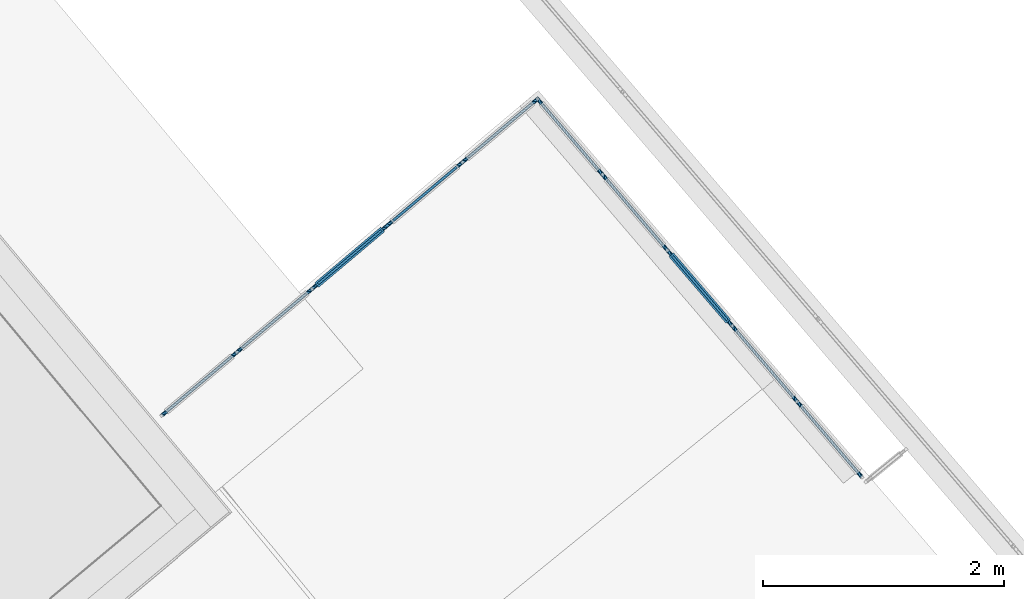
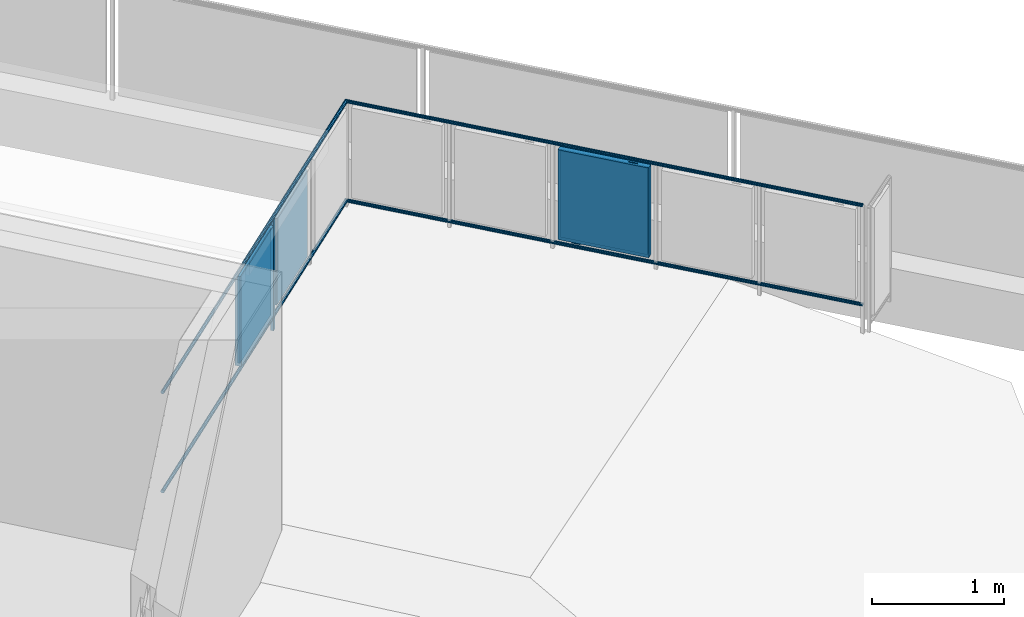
# One storey, part 43 of 67: 10 building element parts, 1 element without a shape of its own.
"""IFC4 building model written with IfcOpenShell, lengths in metres."""

from ifc_helpers import new_model, entity, si_unit, converted_unit, derived_unit, direction, frame, origin_with_axes, place, context, subcontext, project, spatial, polygons, material, type_object, element, aggregate, save


model = new_model("IFC4")

# Units and contexts
model_context = context("Model", 3, precision=1e-05, world=origin_with_axes(), true_north=direction((0.0, 1.0)))
body_context = subcontext(model_context, "Body", "Model", "MODEL_VIEW")
ifc_project = project(units=[si_unit("LENGTHUNIT", "METRE"), si_unit("AREAUNIT", "SQUARE_METRE"), si_unit("VOLUMEUNIT", "CUBIC_METRE"), converted_unit("PLANEANGLEUNIT", "DEGREE", entity("IfcPlaneAngleMeasure", 0.0174532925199), si_unit("PLANEANGLEUNIT", "RADIAN"), dimensions=[0, 0, 0, 0, 0, 0, 0]), converted_unit("TIMEUNIT", "Year", entity("IfcTimeMeasure", 31556926.0), si_unit("TIMEUNIT", "SECOND"), dimensions=[0, 0, 1, 0, 0, 0, 0]), si_unit("MASSUNIT", "GRAM", prefix="KILO"), si_unit("THERMODYNAMICTEMPERATUREUNIT", "DEGREE_CELSIUS"), si_unit("LUMINOUSINTENSITYUNIT", "LUMEN"), si_unit("ENERGYUNIT", "JOULE", prefix="MEGA"), derived_unit("THERMALCONDUCTANCEUNIT", [(si_unit("POWERUNIT", "WATT"), 1), (si_unit("LENGTHUNIT", "METRE"), -1), (si_unit("THERMODYNAMICTEMPERATUREUNIT", "KELVIN"), -1)]), derived_unit("SPECIFICHEATCAPACITYUNIT", [(si_unit("ENERGYUNIT", "JOULE"), 1), (si_unit("MASSUNIT", "GRAM", prefix="KILO"), -1), (si_unit("THERMODYNAMICTEMPERATUREUNIT", "KELVIN"), -1)]), derived_unit("MASSDENSITYUNIT", [(si_unit("MASSUNIT", "GRAM", prefix="KILO"), 1), (si_unit("VOLUMEUNIT", "CUBIC_METRE"), -1)])], contexts=[model_context])

# Site, building, storey
site_placement = place(None, frame((-0.00153261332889, -0.00661245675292, 0.0), z_axis=(0.0, 0.0, 1.0), x_axis=(1.0, 0.0, 0.0)))
site = spatial("IfcSite", under=ifc_project, at=site_placement, Name="Site", CompositionType="ELEMENT")
building_placement = place(site_placement, origin_with_axes())
building = spatial("IfcBuilding", under=site, at=building_placement, Name="Building", CompositionType="ELEMENT")
storey_placement = place(building_placement, frame((0.0, 0.0, -0.22), z_axis=(0.0, 0.0, 1.0), x_axis=(1.0, 0.0, 0.0)))
storey = spatial("IfcBuildingStorey", under=building, at=storey_placement, Name="EG", CompositionType="ELEMENT", Elevation=-0.22)

# Railing, building element parts
railing_type = type_object("IfcRailingType", Name="Geländerart", PredefinedType="NOTDEFINED")
railing_placement = place(storey_placement, frame((12.7838928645, 21.1193756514, 0.38), z_axis=(0.0, 0.0, 1.0), x_axis=(1.0, 0.0, 0.0)))
railing = element("IfcRailing", 1, at=railing_placement, inside=storey, type_object=railing_type, Name="Geländer - 001", PredefinedType="NOTDEFINED")
ifc_material_1 = material(Name="Aluminium")
building_element_part_1_placement = place(railing_placement, origin_with_axes())
building_element_part_1 = element("IfcBuildingElementPart", 2, at=building_element_part_1_placement, material=ifc_material_1, Name="Aluminium", PredefinedType="NOTDEFINED", context=body_context, shape_type="Tessellation", body=[
    polygons([(0.022549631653, -0.0267677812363, 0.985), (0.0226964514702, -0.0269420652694, 0.987604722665), (3.15352079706, 2.61051731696, 0.987604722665), (3.15354671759, 2.61083712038, 0.985), (0.0226964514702, -0.0269420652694, 0.982395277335), (0.0231324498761, -0.0274596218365, 0.97986969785), (0.0238443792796, -0.0283047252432, 0.9775), (0.0248106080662, -0.0294516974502, 0.975358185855), (0.026001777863, -0.0308656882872, 0.973509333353), (0.0273816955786, -0.0325037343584, 0.972009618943), (0.0289084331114, -0.0343160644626, 0.970904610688), (0.0305356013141, -0.0362476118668, 0.970227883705), (0.0322137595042, -0.0382396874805, 0.97), (0.0338919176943, -0.0402317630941, 0.970227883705), (0.035519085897, -0.0421633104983, 0.970904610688), (0.0370458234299, -0.0439756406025, 0.972009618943), (0.0384257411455, -0.0456136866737, 0.973509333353), (0.0396169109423, -0.0470276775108, 0.975358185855), (0.0405831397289, -0.0481746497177, 0.9775), (0.0412950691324, -0.0490197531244, 0.97986969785), (0.0417310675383, -0.0495373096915, 0.982395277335), (0.0418778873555, -0.0497115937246, 0.985), (0.0417310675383, -0.0495373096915, 0.987604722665), (0.0412950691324, -0.0490197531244, 0.99013030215), (0.0405831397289, -0.0481746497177, 0.9925), (0.0396169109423, -0.0470276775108, 0.994641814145), (0.0384257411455, -0.0456136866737, 0.996490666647), (0.0370458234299, -0.0439756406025, 0.997990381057), (0.035519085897, -0.0421633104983, 0.999095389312), (0.0338919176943, -0.0402317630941, 0.999772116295), (0.0322137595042, -0.0382396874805, 1.0), (0.0305356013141, -0.0362476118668, 0.999772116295), (0.0289084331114, -0.0343160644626, 0.999095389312), (0.0273816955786, -0.0325037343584, 0.997990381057), (0.026001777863, -0.0308656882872, 0.996490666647), (0.0248106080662, -0.0294516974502, 0.994641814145), (0.0238443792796, -0.0283047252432, 0.9925), (0.0231324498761, -0.0274596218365, 0.99013030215), (3.15344382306, 2.60956762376, 0.99013030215), (3.1533181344, 2.60801689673, 0.9925), (3.15314755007, 2.60591225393, 0.994641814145), (3.15293725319, 2.60331764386, 0.996490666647), (3.15269363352, 2.60031190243, 0.997990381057), (3.15242409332, 2.59698635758, 0.999095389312), (3.15213682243, 2.59344205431, 0.999772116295), (3.15184054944, 2.58978668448, 1.0), (3.15154427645, 2.58613131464, 0.999772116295), (3.15125700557, 2.58258701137, 0.999095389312), (3.15098746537, 2.57926146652, 0.997990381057), (3.15074384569, 2.57625572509, 0.996490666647), (3.15053354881, 2.57366111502, 0.994641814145), (3.15036296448, 2.57155647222, 0.9925), (3.15023727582, 2.57000574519, 0.99013030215), (3.15016030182, 2.56905605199, 0.987604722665), (3.15013438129, 2.56873624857, 0.985), (3.15016030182, 2.56905605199, 0.982395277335), (3.15023727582, 2.57000574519, 0.97986969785), (3.15036296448, 2.57155647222, 0.9775), (3.15053354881, 2.57366111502, 0.975358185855), (3.15074384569, 2.57625572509, 0.973509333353), (3.15098746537, 2.57926146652, 0.972009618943), (3.15125700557, 2.58258701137, 0.970904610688), (3.15154427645, 2.58613131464, 0.970227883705), (3.15184054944, 2.58978668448, 0.97), (3.15213682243, 2.59344205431, 0.970227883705), (3.15242409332, 2.59698635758, 0.970904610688), (3.15269363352, 2.60031190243, 0.972009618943), (3.15293725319, 2.60331764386, 0.973509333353), (3.15314755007, 2.60591225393, 0.975358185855), (3.1533181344, 2.60801689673, 0.9775), (3.15344382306, 2.60956762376, 0.97986969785), (3.15352079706, 2.61051731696, 0.982395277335)], [[[1, 2, 3, 4]], [[1, 5, 6, 7, 8, 9, 10, 11, 12, 13, 14, 15, 16, 17, 18, 19, 20, 21, 22, 23, 24, 25, 26, 27, 28, 29, 30, 31, 32, 33, 34, 35, 36, 37, 38, 2]], [[2, 38, 39, 3]], [[4, 3, 39, 40, 41, 42, 43, 44, 45, 46, 47, 48, 49, 50, 51, 52, 53, 54, 55, 56, 57, 58, 59, 60, 61, 62, 63, 64, 65, 66, 67, 68, 69, 70, 71, 72]], [[5, 1, 4, 72]], [[6, 5, 72, 71]], [[7, 6, 71, 70]], [[8, 7, 70, 69]], [[9, 8, 69, 68]], [[10, 9, 68, 67]], [[11, 10, 67, 66]], [[12, 11, 66, 65]], [[13, 12, 65, 64]], [[14, 13, 64, 63]], [[15, 14, 63, 62]], [[16, 15, 62, 61]], [[17, 16, 61, 60]], [[18, 17, 60, 59]], [[19, 18, 59, 58]], [[20, 19, 58, 57]], [[21, 20, 57, 56]], [[22, 21, 56, 55]], [[23, 22, 55, 54]], [[24, 23, 54, 53]], [[25, 24, 53, 52]], [[26, 25, 52, 51]], [[27, 26, 51, 50]], [[28, 27, 50, 49]], [[29, 28, 49, 48]], [[30, 29, 48, 47]], [[31, 30, 47, 46]], [[32, 31, 46, 45]], [[33, 32, 45, 44]], [[34, 33, 44, 43]], [[35, 34, 43, 42]], [[36, 35, 42, 41]], [[37, 36, 41, 40]], [[38, 37, 40, 39]]], closed=True),
])
building_element_part_2_placement = place(railing_placement, origin_with_axes())
building_element_part_2 = element("IfcBuildingElementPart", 3, at=building_element_part_2_placement, material=ifc_material_1, Name="Aluminium", PredefinedType="NOTDEFINED", context=body_context, shape_type="Tessellation", body=[
    polygons([(0.022549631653, -0.0267677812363, 0.07), (0.0226964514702, -0.0269420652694, 0.072604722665), (3.15352079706, 2.61051731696, 0.072604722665), (3.15354671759, 2.61083712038, 0.07), (0.0226964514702, -0.0269420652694, 0.067395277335), (0.0231324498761, -0.0274596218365, 0.0648696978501), (0.0238443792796, -0.0283047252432, 0.0625), (0.0248106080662, -0.0294516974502, 0.0603581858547), (0.026001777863, -0.0308656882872, 0.0585093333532), (0.0273816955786, -0.0325037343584, 0.0570096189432), (0.0289084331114, -0.0343160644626, 0.0559046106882), (0.0305356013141, -0.0362476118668, 0.0552278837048), (0.0322137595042, -0.0382396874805, 0.055), (0.0338919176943, -0.0402317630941, 0.0552278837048), (0.035519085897, -0.0421633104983, 0.0559046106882), (0.0370458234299, -0.0439756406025, 0.0570096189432), (0.0384257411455, -0.0456136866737, 0.0585093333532), (0.0396169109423, -0.0470276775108, 0.0603581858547), (0.0405831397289, -0.0481746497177, 0.0625), (0.0412950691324, -0.0490197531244, 0.0648696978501), (0.0417310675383, -0.0495373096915, 0.067395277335), (0.0418778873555, -0.0497115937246, 0.07), (0.0417310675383, -0.0495373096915, 0.072604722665), (0.0412950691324, -0.0490197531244, 0.0751303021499), (0.0405831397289, -0.0481746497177, 0.0775), (0.0396169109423, -0.0470276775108, 0.0796418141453), (0.0384257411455, -0.0456136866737, 0.0814906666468), (0.0370458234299, -0.0439756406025, 0.0829903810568), (0.035519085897, -0.0421633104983, 0.0840953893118), (0.0338919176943, -0.0402317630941, 0.0847721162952), (0.0322137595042, -0.0382396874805, 0.085), (0.0305356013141, -0.0362476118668, 0.0847721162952), (0.0289084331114, -0.0343160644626, 0.0840953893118), (0.0273816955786, -0.0325037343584, 0.0829903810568), (0.026001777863, -0.0308656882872, 0.0814906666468), (0.0248106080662, -0.0294516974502, 0.0796418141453), (0.0238443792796, -0.0283047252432, 0.0775), (0.0231324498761, -0.0274596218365, 0.0751303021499), (3.15344382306, 2.60956762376, 0.0751303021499), (3.1533181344, 2.60801689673, 0.0775), (3.15314755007, 2.60591225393, 0.0796418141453), (3.15293725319, 2.60331764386, 0.0814906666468), (3.15269363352, 2.60031190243, 0.0829903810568), (3.15242409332, 2.59698635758, 0.0840953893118), (3.15213682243, 2.59344205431, 0.0847721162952), (3.15184054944, 2.58978668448, 0.085), (3.15154427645, 2.58613131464, 0.0847721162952), (3.15125700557, 2.58258701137, 0.0840953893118), (3.15098746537, 2.57926146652, 0.0829903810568), (3.15074384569, 2.57625572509, 0.0814906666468), (3.15053354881, 2.57366111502, 0.0796418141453), (3.15036296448, 2.57155647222, 0.0775), (3.15023727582, 2.57000574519, 0.0751303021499), (3.15016030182, 2.56905605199, 0.072604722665), (3.15013438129, 2.56873624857, 0.07), (3.15016030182, 2.56905605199, 0.067395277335), (3.15023727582, 2.57000574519, 0.0648696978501), (3.15036296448, 2.57155647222, 0.0625), (3.15053354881, 2.57366111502, 0.0603581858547), (3.15074384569, 2.57625572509, 0.0585093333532), (3.15098746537, 2.57926146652, 0.0570096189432), (3.15125700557, 2.58258701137, 0.0559046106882), (3.15154427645, 2.58613131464, 0.0552278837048), (3.15184054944, 2.58978668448, 0.055), (3.15213682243, 2.59344205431, 0.0552278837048), (3.15242409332, 2.59698635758, 0.0559046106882), (3.15269363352, 2.60031190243, 0.0570096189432), (3.15293725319, 2.60331764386, 0.0585093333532), (3.15314755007, 2.60591225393, 0.0603581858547), (3.1533181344, 2.60801689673, 0.0625), (3.15344382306, 2.60956762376, 0.0648696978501), (3.15352079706, 2.61051731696, 0.067395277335)], [[[1, 2, 3, 4]], [[1, 5, 6, 7, 8, 9, 10, 11, 12, 13, 14, 15, 16, 17, 18, 19, 20, 21, 22, 23, 24, 25, 26, 27, 28, 29, 30, 31, 32, 33, 34, 35, 36, 37, 38, 2]], [[2, 38, 39, 3]], [[4, 3, 39, 40, 41, 42, 43, 44, 45, 46, 47, 48, 49, 50, 51, 52, 53, 54, 55, 56, 57, 58, 59, 60, 61, 62, 63, 64, 65, 66, 67, 68, 69, 70, 71, 72]], [[5, 1, 4, 72]], [[6, 5, 72, 71]], [[7, 6, 71, 70]], [[8, 7, 70, 69]], [[9, 8, 69, 68]], [[10, 9, 68, 67]], [[11, 10, 67, 66]], [[12, 11, 66, 65]], [[13, 12, 65, 64]], [[14, 13, 64, 63]], [[15, 14, 63, 62]], [[16, 15, 62, 61]], [[17, 16, 61, 60]], [[18, 17, 60, 59]], [[19, 18, 59, 58]], [[20, 19, 58, 57]], [[21, 20, 57, 56]], [[22, 21, 56, 55]], [[23, 22, 55, 54]], [[24, 23, 54, 53]], [[25, 24, 53, 52]], [[26, 25, 52, 51]], [[27, 26, 51, 50]], [[28, 27, 50, 49]], [[29, 28, 49, 48]], [[30, 29, 48, 47]], [[31, 30, 47, 46]], [[32, 31, 46, 45]], [[33, 32, 45, 44]], [[34, 33, 44, 43]], [[35, 34, 43, 42]], [[36, 35, 42, 41]], [[37, 36, 41, 40]], [[38, 37, 40, 39]]], closed=True),
])
ifc_material_2 = material(Name="Profilit")
building_element_part_3_placement = place(railing_placement, origin_with_axes())
building_element_part_3 = element("IfcBuildingElementPart", 4, at=building_element_part_3_placement, material=ifc_material_2, Name="Profilit", PredefinedType="NOTDEFINED", context=body_context, shape_type="Tessellation", body=[
    polygons([(1.84783548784, 1.50434618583, 0.135), (1.3233333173, 1.06249668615, 0.135), (1.3233333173, 1.06249668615, 0.935), (1.84783548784, 1.50434618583, 0.935), (1.3362188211, 1.04720081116, 0.135), (1.86072099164, 1.48905031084, 0.135), (1.3362188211, 1.04720081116, 0.935), (1.86072099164, 1.48905031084, 0.935)], [[[1, 2, 3, 4]], [[5, 2, 1, 6]], [[7, 3, 2, 5]], [[4, 3, 7, 8]], [[1, 4, 8, 6]], [[7, 5, 6, 8]]], closed=True),
])
building_element_part_4_placement = place(railing_placement, origin_with_axes())
building_element_part_4 = element("IfcBuildingElementPart", 5, at=building_element_part_4_placement, material=ifc_material_1, Name="Aluminium", PredefinedType="NOTDEFINED", context=body_context, shape_type="Tessellation", body=[
    polygons([(1.39317284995, 1.11152412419, 0.12), (1.44670841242, 1.15662338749, 0.12), (1.44670841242, 1.15662338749, 0.095), (1.39317284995, 1.11152412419, 0.095), (1.3963942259, 1.10770015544, 0.12), (1.44992978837, 1.15279941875, 0.12), (1.44992978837, 1.15279941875, 0.095), (1.3963942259, 1.10770015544, 0.095)], [[[1, 2, 3, 4]], [[5, 6, 2, 1]], [[2, 6, 7, 3]], [[4, 3, 7, 8]], [[1, 4, 8, 5]], [[8, 7, 6, 5]]], closed=True),
    polygons([(1.78766008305, 1.44384684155, 0.95), (1.73412452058, 1.39874757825, 0.95), (1.73412452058, 1.39874757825, 0.955), (1.78766008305, 1.44384684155, 0.955), (1.790881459, 1.44002287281, 0.95), (1.73734589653, 1.3949236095, 0.95), (1.73734589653, 1.3949236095, 0.955), (1.790881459, 1.44002287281, 0.955)], [[[1, 2, 3, 4]], [[5, 6, 2, 1]], [[2, 6, 7, 3]], [[4, 3, 7, 8]], [[1, 4, 8, 5]], [[8, 7, 6, 5]]], closed=True),
    polygons([(1.33441104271, 1.02606477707, 0.12), (1.30219728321, 1.06430446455, 0.12), (1.84964326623, 1.52548221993, 0.12), (1.88185702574, 1.48724253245, 0.12), (1.3497069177, 1.03895028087, 0.14), (1.34004278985, 1.05042218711, 0.14), (1.3362188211, 1.04720081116, 0.135), (1.3233333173, 1.06249668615, 0.135), (1.32715728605, 1.0657180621, 0.14), (1.3174931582, 1.07718996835, 0.14), (1.83434739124, 1.51259671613, 0.14), (1.83434739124, 1.51259671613, 0.93), (1.3174931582, 1.07718996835, 0.93), (1.3174931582, 1.07718996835, 0.14), (1.30219728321, 1.06430446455, 0.12), (1.30219728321, 1.06430446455, 0.95), (1.84964326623, 1.52548221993, 0.95), (1.88185702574, 1.48724253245, 0.95), (1.33441104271, 1.02606477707, 0.95), (1.33441104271, 1.02606477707, 0.12), (1.3497069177, 1.03895028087, 0.14), (1.3497069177, 1.03895028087, 0.93), (1.86656115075, 1.47435702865, 0.93), (1.86656115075, 1.47435702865, 0.14), (1.85689702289, 1.48582893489, 0.14), (1.85689702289, 1.48582893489, 0.93), (1.34004278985, 1.05042218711, 0.93), (1.34004278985, 1.05042218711, 0.14), (1.3362188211, 1.04720081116, 0.135), (1.3362188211, 1.04720081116, 0.935), (1.86072099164, 1.48905031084, 0.935), (1.86072099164, 1.48905031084, 0.135), (1.84783548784, 1.50434618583, 0.135), (1.84783548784, 1.50434618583, 0.935), (1.3233333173, 1.06249668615, 0.935), (1.3233333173, 1.06249668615, 0.135), (1.32715728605, 1.0657180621, 0.14), (1.32715728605, 1.0657180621, 0.93), (1.84401151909, 1.50112480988, 0.93), (1.84401151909, 1.50112480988, 0.14)], [[[1, 2, 3, 4]], [[1, 5, 6, 7, 8, 9, 10, 2]], [[2, 10, 11, 12, 13, 14, 15, 16, 17, 3]], [[4, 3, 17, 18]], [[5, 1, 4, 18, 19, 20, 21, 22, 23, 24]], [[6, 5, 24, 25]], [[7, 6, 25, 26, 27, 28, 29, 30, 31, 32]], [[8, 7, 32, 33]], [[9, 8, 33, 34, 35, 36, 37, 38, 39, 40]], [[10, 9, 40, 11]], [[11, 40, 39, 12]], [[12, 39, 38, 13]], [[13, 38, 37, 14]], [[20, 15, 14, 37, 36, 29, 28, 21]], [[19, 16, 15, 20]], [[18, 17, 16, 19]], [[27, 22, 21, 28]], [[26, 23, 22, 27]], [[25, 24, 23, 26]], [[35, 30, 29, 36]], [[34, 31, 30, 35]], [[33, 32, 31, 34]]], closed=True),
])
building_element_part_5_placement = place(railing_placement, origin_with_axes())
building_element_part_5 = element("IfcBuildingElementPart", 6, at=building_element_part_5_placement, material=ifc_material_1, Name="Aluminium", PredefinedType="NOTDEFINED", context=body_context, shape_type="Tessellation", body=[
    polygons([(1.92160319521, 1.5370696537, -0.05), (1.90549631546, 1.55618949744, -0.05), (1.90549631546, 1.55618949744, 0.98), (1.92160319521, 1.5370696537, 0.98), (1.90248335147, 1.52096277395, -0.05), (1.88637647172, 1.54008261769, -0.05), (1.88637647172, 1.54008261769, 0.98), (1.90248335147, 1.52096277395, 0.98)], [[[1, 2, 3, 4]], [[1, 5, 6, 2]], [[2, 6, 7, 3]], [[4, 3, 7, 8]], [[5, 1, 4, 8]], [[6, 5, 8, 7]]], closed=True),
])
building_element_part_6_placement = place(railing_placement, origin_with_axes())
building_element_part_6 = element("IfcBuildingElementPart", 7, at=building_element_part_6_placement, material=ifc_material_2, Name="Profilit", PredefinedType="NOTDEFINED", context=body_context, shape_type="Tessellation", body=[
    polygons([(2.47176084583, 2.02995146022, 0.135), (1.94725867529, 1.58810196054, 0.135), (1.94725867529, 1.58810196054, 0.935), (2.47176084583, 2.02995146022, 0.935), (1.96014417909, 1.57280608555, 0.135), (2.48464634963, 2.01465558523, 0.135), (1.96014417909, 1.57280608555, 0.935), (2.48464634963, 2.01465558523, 0.935)], [[[1, 2, 3, 4]], [[5, 2, 1, 6]], [[7, 3, 2, 5]], [[4, 3, 7, 8]], [[1, 4, 8, 6]], [[7, 5, 6, 8]]], closed=True),
])
building_element_part_7_placement = place(railing_placement, origin_with_axes())
building_element_part_7 = element("IfcBuildingElementPart", 8, at=building_element_part_7_placement, material=ifc_material_1, Name="Aluminium", PredefinedType="NOTDEFINED", context=body_context, shape_type="Tessellation", body=[
    polygons([(3.15354671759, 2.61083712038, 0.985), (3.15352079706, 2.61051731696, 0.987604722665), (5.85656260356, -0.54082688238, 0.987604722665), (5.85673557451, -0.54067851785, 0.985), (3.15352079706, 2.61051731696, 0.982395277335), (3.15344382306, 2.60956762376, 0.97986969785), (3.1533181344, 2.60801689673, 0.9775), (3.15314755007, 2.60591225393, 0.975358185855), (3.15293725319, 2.60331764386, 0.973509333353), (3.15269363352, 2.60031190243, 0.972009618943), (3.15242409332, 2.59698635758, 0.970904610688), (3.15213682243, 2.59344205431, 0.970227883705), (3.15184054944, 2.58978668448, 0.97), (3.15154427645, 2.58613131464, 0.970227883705), (3.15125700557, 2.58258701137, 0.970904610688), (3.15098746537, 2.57926146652, 0.972009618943), (3.15074384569, 2.57625572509, 0.973509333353), (3.15053354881, 2.57366111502, 0.975358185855), (3.15036296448, 2.57155647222, 0.9775), (3.15023727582, 2.57000574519, 0.97986969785), (3.15016030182, 2.56905605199, 0.982395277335), (3.15013438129, 2.56873624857, 0.985), (3.15016030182, 2.56905605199, 0.987604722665), (3.15023727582, 2.57000574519, 0.99013030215), (3.15036296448, 2.57155647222, 0.9925), (3.15053354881, 2.57366111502, 0.994641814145), (3.15074384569, 2.57625572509, 0.996490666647), (3.15098746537, 2.57926146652, 0.997990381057), (3.15125700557, 2.58258701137, 0.999095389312), (3.15154427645, 2.58613131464, 0.999772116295), (3.15184054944, 2.58978668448, 1.0), (3.15213682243, 2.59344205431, 0.999772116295), (3.15242409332, 2.59698635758, 0.999095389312), (3.15269363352, 2.60031190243, 0.997990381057), (3.15293725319, 2.60331764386, 0.996490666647), (3.15314755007, 2.60591225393, 0.994641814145), (3.1533181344, 2.60801689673, 0.9925), (3.15344382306, 2.60956762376, 0.99013030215), (5.85604894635, -0.541267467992, 0.99013030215), (5.8552102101, -0.541986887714, 0.9925), (5.85407187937, -0.542963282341, 0.994641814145), (5.85266854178, -0.544166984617, 0.996490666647), (5.85104283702, -0.545561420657, 0.997990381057), (5.84924416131, -0.547104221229, 0.999095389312), (5.84732716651, -0.548748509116, 0.999772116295), (5.84535009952, -0.550444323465, 1.0), (5.84337303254, -0.552140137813, 0.999772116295), (5.84145603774, -0.553784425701, 0.999095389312), (5.83965736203, -0.555327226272, 0.997990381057), (5.83803165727, -0.556721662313, 0.996490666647), (5.83662831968, -0.557925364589, 0.994641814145), (5.83548998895, -0.558901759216, 0.9925), (5.83465125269, -0.559621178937, 0.99013030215), (5.83413759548, -0.560061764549, 0.987604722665), (5.83396462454, -0.56021012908, 0.985), (5.83413759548, -0.560061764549, 0.982395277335), (5.83465125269, -0.559621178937, 0.97986969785), (5.83548998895, -0.558901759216, 0.9775), (5.83662831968, -0.557925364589, 0.975358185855), (5.83803165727, -0.556721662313, 0.973509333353), (5.83965736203, -0.555327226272, 0.972009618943), (5.84145603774, -0.553784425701, 0.970904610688), (5.84337303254, -0.552140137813, 0.970227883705), (5.84535009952, -0.550444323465, 0.97), (5.84732716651, -0.548748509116, 0.970227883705), (5.84924416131, -0.547104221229, 0.970904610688), (5.85104283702, -0.545561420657, 0.972009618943), (5.85266854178, -0.544166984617, 0.973509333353), (5.85407187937, -0.542963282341, 0.975358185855), (5.8552102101, -0.541986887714, 0.9775), (5.85604894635, -0.541267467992, 0.97986969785), (5.85656260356, -0.54082688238, 0.982395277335)], [[[1, 2, 3, 4]], [[1, 5, 6, 7, 8, 9, 10, 11, 12, 13, 14, 15, 16, 17, 18, 19, 20, 21, 22, 23, 24, 25, 26, 27, 28, 29, 30, 31, 32, 33, 34, 35, 36, 37, 38, 2]], [[2, 38, 39, 3]], [[4, 3, 39, 40, 41, 42, 43, 44, 45, 46, 47, 48, 49, 50, 51, 52, 53, 54, 55, 56, 57, 58, 59, 60, 61, 62, 63, 64, 65, 66, 67, 68, 69, 70, 71, 72]], [[5, 1, 4, 72]], [[6, 5, 72, 71]], [[7, 6, 71, 70]], [[8, 7, 70, 69]], [[9, 8, 69, 68]], [[10, 9, 68, 67]], [[11, 10, 67, 66]], [[12, 11, 66, 65]], [[13, 12, 65, 64]], [[14, 13, 64, 63]], [[15, 14, 63, 62]], [[16, 15, 62, 61]], [[17, 16, 61, 60]], [[18, 17, 60, 59]], [[19, 18, 59, 58]], [[20, 19, 58, 57]], [[21, 20, 57, 56]], [[22, 21, 56, 55]], [[23, 22, 55, 54]], [[24, 23, 54, 53]], [[25, 24, 53, 52]], [[26, 25, 52, 51]], [[27, 26, 51, 50]], [[28, 27, 50, 49]], [[29, 28, 49, 48]], [[30, 29, 48, 47]], [[31, 30, 47, 46]], [[32, 31, 46, 45]], [[33, 32, 45, 44]], [[34, 33, 44, 43]], [[35, 34, 43, 42]], [[36, 35, 42, 41]], [[37, 36, 41, 40]], [[38, 37, 40, 39]]], closed=True),
])
building_element_part_8_placement = place(railing_placement, origin_with_axes())
building_element_part_8 = element("IfcBuildingElementPart", 9, at=building_element_part_8_placement, material=ifc_material_1, Name="Aluminium", PredefinedType="NOTDEFINED", context=body_context, shape_type="Tessellation", body=[
    polygons([(3.15354671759, 2.61083712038, 0.07), (3.15352079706, 2.61051731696, 0.072604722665), (5.85656260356, -0.54082688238, 0.072604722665), (5.85673557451, -0.54067851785, 0.07), (3.15352079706, 2.61051731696, 0.067395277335), (3.15344382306, 2.60956762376, 0.0648696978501), (3.1533181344, 2.60801689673, 0.0625), (3.15314755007, 2.60591225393, 0.0603581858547), (3.15293725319, 2.60331764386, 0.0585093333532), (3.15269363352, 2.60031190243, 0.0570096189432), (3.15242409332, 2.59698635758, 0.0559046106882), (3.15213682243, 2.59344205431, 0.0552278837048), (3.15184054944, 2.58978668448, 0.055), (3.15154427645, 2.58613131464, 0.0552278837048), (3.15125700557, 2.58258701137, 0.0559046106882), (3.15098746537, 2.57926146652, 0.0570096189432), (3.15074384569, 2.57625572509, 0.0585093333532), (3.15053354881, 2.57366111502, 0.0603581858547), (3.15036296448, 2.57155647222, 0.0625), (3.15023727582, 2.57000574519, 0.0648696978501), (3.15016030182, 2.56905605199, 0.067395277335), (3.15013438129, 2.56873624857, 0.07), (3.15016030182, 2.56905605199, 0.072604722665), (3.15023727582, 2.57000574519, 0.0751303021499), (3.15036296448, 2.57155647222, 0.0775), (3.15053354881, 2.57366111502, 0.0796418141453), (3.15074384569, 2.57625572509, 0.0814906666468), (3.15098746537, 2.57926146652, 0.0829903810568), (3.15125700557, 2.58258701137, 0.0840953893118), (3.15154427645, 2.58613131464, 0.0847721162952), (3.15184054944, 2.58978668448, 0.085), (3.15213682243, 2.59344205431, 0.0847721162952), (3.15242409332, 2.59698635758, 0.0840953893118), (3.15269363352, 2.60031190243, 0.0829903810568), (3.15293725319, 2.60331764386, 0.0814906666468), (3.15314755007, 2.60591225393, 0.0796418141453), (3.1533181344, 2.60801689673, 0.0775), (3.15344382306, 2.60956762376, 0.0751303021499), (5.85604894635, -0.541267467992, 0.0751303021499), (5.8552102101, -0.541986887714, 0.0775), (5.85407187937, -0.542963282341, 0.0796418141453), (5.85266854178, -0.544166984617, 0.0814906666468), (5.85104283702, -0.545561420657, 0.0829903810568), (5.84924416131, -0.547104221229, 0.0840953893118), (5.84732716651, -0.548748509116, 0.0847721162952), (5.84535009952, -0.550444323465, 0.085), (5.84337303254, -0.552140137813, 0.0847721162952), (5.84145603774, -0.553784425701, 0.0840953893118), (5.83965736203, -0.555327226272, 0.0829903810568), (5.83803165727, -0.556721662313, 0.0814906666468), (5.83662831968, -0.557925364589, 0.0796418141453), (5.83548998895, -0.558901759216, 0.0775), (5.83465125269, -0.559621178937, 0.0751303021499), (5.83413759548, -0.560061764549, 0.072604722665), (5.83396462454, -0.56021012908, 0.07), (5.83413759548, -0.560061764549, 0.067395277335), (5.83465125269, -0.559621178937, 0.0648696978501), (5.83548998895, -0.558901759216, 0.0625), (5.83662831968, -0.557925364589, 0.0603581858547), (5.83803165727, -0.556721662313, 0.0585093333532), (5.83965736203, -0.555327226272, 0.0570096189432), (5.84145603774, -0.553784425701, 0.0559046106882), (5.84337303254, -0.552140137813, 0.0552278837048), (5.84535009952, -0.550444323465, 0.055), (5.84732716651, -0.548748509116, 0.0552278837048), (5.84924416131, -0.547104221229, 0.0559046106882), (5.85104283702, -0.545561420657, 0.0570096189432), (5.85266854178, -0.544166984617, 0.0585093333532), (5.85407187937, -0.542963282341, 0.0603581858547), (5.8552102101, -0.541986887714, 0.0625), (5.85604894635, -0.541267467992, 0.0648696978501), (5.85656260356, -0.54082688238, 0.067395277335)], [[[1, 2, 3, 4]], [[1, 5, 6, 7, 8, 9, 10, 11, 12, 13, 14, 15, 16, 17, 18, 19, 20, 21, 22, 23, 24, 25, 26, 27, 28, 29, 30, 31, 32, 33, 34, 35, 36, 37, 38, 2]], [[2, 38, 39, 3]], [[4, 3, 39, 40, 41, 42, 43, 44, 45, 46, 47, 48, 49, 50, 51, 52, 53, 54, 55, 56, 57, 58, 59, 60, 61, 62, 63, 64, 65, 66, 67, 68, 69, 70, 71, 72]], [[5, 1, 4, 72]], [[6, 5, 72, 71]], [[7, 6, 71, 70]], [[8, 7, 70, 69]], [[9, 8, 69, 68]], [[10, 9, 68, 67]], [[11, 10, 67, 66]], [[12, 11, 66, 65]], [[13, 12, 65, 64]], [[14, 13, 64, 63]], [[15, 14, 63, 62]], [[16, 15, 62, 61]], [[17, 16, 61, 60]], [[18, 17, 60, 59]], [[19, 18, 59, 58]], [[20, 19, 58, 57]], [[21, 20, 57, 56]], [[22, 21, 56, 55]], [[23, 22, 55, 54]], [[24, 23, 54, 53]], [[25, 24, 53, 52]], [[26, 25, 52, 51]], [[27, 26, 51, 50]], [[28, 27, 50, 49]], [[29, 28, 49, 48]], [[30, 29, 48, 47]], [[31, 30, 47, 46]], [[32, 31, 46, 45]], [[33, 32, 45, 44]], [[34, 33, 44, 43]], [[35, 34, 43, 42]], [[36, 35, 42, 41]], [[37, 36, 41, 40]], [[38, 37, 40, 39]]], closed=True),
])
building_element_part_9_placement = place(railing_placement, origin_with_axes())
building_element_part_9 = element("IfcBuildingElementPart", 10, at=building_element_part_9_placement, material=ifc_material_2, Name="Profilit", PredefinedType="NOTDEFINED", context=body_context, shape_type="Tessellation", body=[
    polygons([(4.73321810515, 0.761495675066, 0.135), (4.27915317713, 1.2908677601, 0.135), (4.27915317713, 1.2908677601, 0.935), (4.73321810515, 0.761495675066, 0.935), (4.26397254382, 1.27784668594, 0.135), (4.71803747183, 0.748474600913, 0.135), (4.26397254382, 1.27784668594, 0.935), (4.71803747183, 0.748474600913, 0.935)], [[[1, 2, 3, 4]], [[5, 2, 1, 6]], [[7, 3, 2, 5]], [[4, 3, 7, 8]], [[1, 4, 8, 6]], [[7, 5, 6, 8]]], closed=True),
])
building_element_part_10_placement = place(railing_placement, origin_with_axes())
building_element_part_10 = element("IfcBuildingElementPart", 11, at=building_element_part_10_placement, material=ifc_material_1, Name="Aluminium", PredefinedType="NOTDEFINED", context=body_context, shape_type="Tessellation", body=[
    polygons([(4.32880000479, 1.2214671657, 0.12), (4.37437376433, 1.16833494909, 0.12), (4.37437376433, 1.16833494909, 0.095), (4.32880000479, 1.2214671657, 0.095), (4.32500484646, 1.21821189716, 0.12), (4.370578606, 1.16507968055, 0.12), (4.370578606, 1.16507968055, 0.095), (4.32500484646, 1.21821189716, 0.095)], [[[1, 2, 3, 4]], [[5, 6, 2, 1]], [[2, 6, 7, 3]], [[4, 3, 7, 8]], [[1, 4, 8, 5]], [[8, 7, 6, 5]]], closed=True),
    polygons([(4.6721858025, 0.821130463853, 0.95), (4.62661204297, 0.87426268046, 0.95), (4.62661204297, 0.87426268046, 0.955), (4.6721858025, 0.821130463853, 0.955), (4.66839064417, 0.817875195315, 0.95), (4.62281688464, 0.871007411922, 0.95), (4.62281688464, 0.871007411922, 0.955), (4.66839064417, 0.817875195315, 0.955)], [[[1, 2, 3, 4]], [[5, 6, 2, 1]], [[2, 6, 7, 3]], [[4, 3, 7, 8]], [[1, 4, 8, 5]], [[8, 7, 6, 5]]], closed=True),
    polygons([(4.24282126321, 1.27946635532, 0.12), (4.2807728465, 1.3120190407, 0.12), (4.75436938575, 0.759876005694, 0.12), (4.71641780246, 0.72732332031, 0.12), (4.25584233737, 1.264285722, 0.14), (4.26722781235, 1.27405152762, 0.14), (4.26397254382, 1.27784668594, 0.135), (4.27915317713, 1.2908677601, 0.135), (4.28240844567, 1.28707260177, 0.14), (4.29379392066, 1.29683840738, 0.14), (4.7413483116, 0.77505663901, 0.14), (4.7413483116, 0.77505663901, 0.93), (4.29379392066, 1.29683840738, 0.93), (4.29379392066, 1.29683840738, 0.14), (4.2807728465, 1.3120190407, 0.12), (4.2807728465, 1.3120190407, 0.95), (4.75436938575, 0.759876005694, 0.95), (4.71641780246, 0.72732332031, 0.95), (4.24282126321, 1.27946635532, 0.95), (4.24282126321, 1.27946635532, 0.12), (4.25584233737, 1.264285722, 0.14), (4.25584233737, 1.264285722, 0.93), (4.70339672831, 0.742503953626, 0.93), (4.70339672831, 0.742503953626, 0.14), (4.7147822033, 0.752269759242, 0.14), (4.7147822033, 0.752269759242, 0.93), (4.26722781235, 1.27405152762, 0.93), (4.26722781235, 1.27405152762, 0.14), (4.26397254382, 1.27784668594, 0.135), (4.26397254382, 1.27784668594, 0.935), (4.71803747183, 0.748474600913, 0.935), (4.71803747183, 0.748474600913, 0.135), (4.73321810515, 0.761495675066, 0.135), (4.73321810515, 0.761495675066, 0.935), (4.27915317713, 1.2908677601, 0.935), (4.27915317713, 1.2908677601, 0.135), (4.28240844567, 1.28707260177, 0.14), (4.28240844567, 1.28707260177, 0.93), (4.72996283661, 0.765290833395, 0.93), (4.72996283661, 0.765290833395, 0.14)], [[[1, 2, 3, 4]], [[1, 5, 6, 7, 8, 9, 10, 2]], [[2, 10, 11, 12, 13, 14, 15, 16, 17, 3]], [[4, 3, 17, 18]], [[5, 1, 4, 18, 19, 20, 21, 22, 23, 24]], [[6, 5, 24, 25]], [[7, 6, 25, 26, 27, 28, 29, 30, 31, 32]], [[8, 7, 32, 33]], [[9, 8, 33, 34, 35, 36, 37, 38, 39, 40]], [[10, 9, 40, 11]], [[11, 40, 39, 12]], [[12, 39, 38, 13]], [[13, 38, 37, 14]], [[20, 15, 14, 37, 36, 29, 28, 21]], [[19, 16, 15, 20]], [[18, 17, 16, 19]], [[27, 22, 21, 28]], [[26, 23, 22, 27]], [[25, 24, 23, 26]], [[35, 30, 29, 36]], [[34, 31, 30, 35]], [[33, 32, 31, 34]]], closed=True),
])
aggregate(railing, [building_element_part_1, building_element_part_2, building_element_part_3, building_element_part_4, building_element_part_5, building_element_part_6, building_element_part_7, building_element_part_8, building_element_part_9, building_element_part_10])

save(model, "model.ifc")
